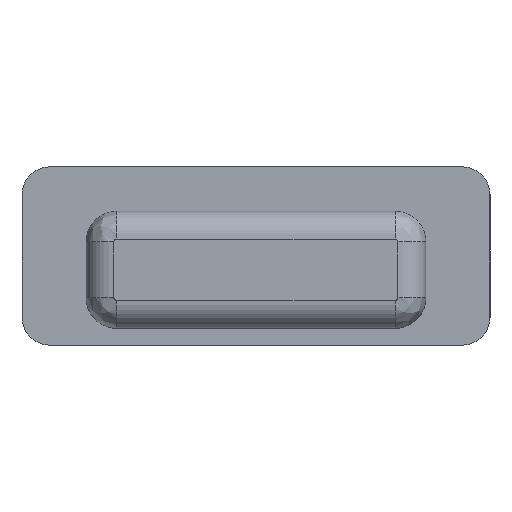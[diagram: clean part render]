
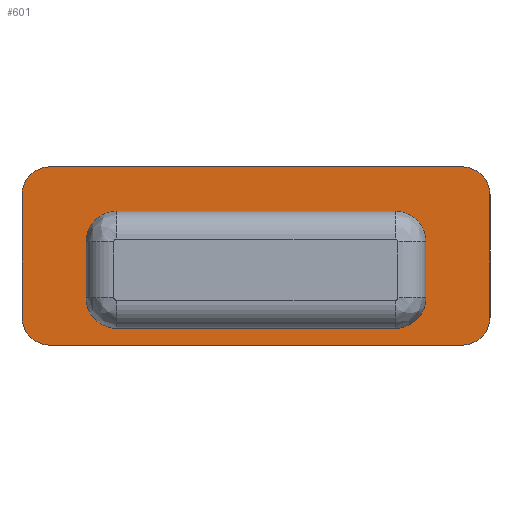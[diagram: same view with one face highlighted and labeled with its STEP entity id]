
A CAD part, top view. The second image highlights one B-rep face of the part: STEP entity #601.
In plain terms, the highlighted planar face has unit normal (-0.001, 0, 1).
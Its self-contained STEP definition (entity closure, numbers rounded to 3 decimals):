
#97=CARTESIAN_POINT('',(-28.539,-5.2,18.757));
#98=DIRECTION('',(-0.001,0.,1.));
#99=DIRECTION('',(-1.,0.,-0.001));
#100=AXIS2_PLACEMENT_3D('',#97,#98,#99);
#102=DIRECTION('',(-1.,0.,-0.001));
#103=VECTOR('',#102,10.);
#104=CARTESIAN_POINT('',(-18.539,-6.3,18.763));
#105=LINE('',#104,#103);
#106=CARTESIAN_POINT('',(-18.539,-5.2,18.763));
#107=DIRECTION('',(-0.001,0.,1.));
#108=DIRECTION('',(0.,-1.,0.));
#109=AXIS2_PLACEMENT_3D('',#106,#107,#108);
#111=DIRECTION('',(0.,-1.,0.));
#112=VECTOR('',#111,2.);
#113=CARTESIAN_POINT('',(-17.439,-3.2,18.764));
#114=LINE('',#113,#112);
#115=CARTESIAN_POINT('',(-18.539,-3.2,18.763));
#116=DIRECTION('',(0.001,0.,-1.));
#117=DIRECTION('',(0.,1.,0.));
#118=AXIS2_PLACEMENT_3D('',#115,#116,#117);
#120=DIRECTION('',(1.,0.,0.001));
#121=VECTOR('',#120,10.);
#122=CARTESIAN_POINT('',(-28.539,-2.1,18.757));
#123=LINE('',#122,#121);
#124=CARTESIAN_POINT('',(-28.539,-3.2,18.757));
#125=DIRECTION('',(0.001,0.,-1.));
#126=DIRECTION('',(-1.,0.,-0.001));
#127=AXIS2_PLACEMENT_3D('',#124,#125,#126);
#129=DIRECTION('',(0.,1.,0.));
#130=VECTOR('',#129,2.);
#131=CARTESIAN_POINT('',(-29.639,-5.2,18.756));
#132=LINE('',#131,#130);
#133=CARTESIAN_POINT('',(-30.939,-1.5,18.756));
#134=DIRECTION('',(-0.001,0.,1.));
#135=DIRECTION('',(0.,1.,0.));
#136=AXIS2_PLACEMENT_3D('',#133,#134,#135);
#138=CARTESIAN_POINT('',(-16.139,-1.5,18.764));
#139=DIRECTION('',(-0.001,0.,1.));
#140=DIRECTION('',(1.,0.,0.001));
#141=AXIS2_PLACEMENT_3D('',#138,#139,#140);
#143=CARTESIAN_POINT('',(-16.139,-5.9,18.764));
#144=DIRECTION('',(-0.001,0.,1.));
#145=DIRECTION('',(0.,-1.,0.));
#146=AXIS2_PLACEMENT_3D('',#143,#144,#145);
#148=DIRECTION('',(-1.,0.,-0.001));
#149=VECTOR('',#148,14.8);
#150=CARTESIAN_POINT('',(-16.139,-6.9,18.764));
#151=LINE('',#150,#149);
#152=CARTESIAN_POINT('',(-30.939,-5.9,18.756));
#153=DIRECTION('',(-0.001,0.,1.));
#154=DIRECTION('',(-1.,0.,-0.001));
#155=AXIS2_PLACEMENT_3D('',#152,#153,#154);
#213=DIRECTION('',(0.,-1.,0.));
#214=VECTOR('',#213,4.4);
#215=CARTESIAN_POINT('',(-31.939,-1.5,18.755));
#216=LINE('',#215,#214);
#249=DIRECTION('',(0.,1.,0.));
#250=VECTOR('',#249,4.4);
#251=CARTESIAN_POINT('',(-15.139,-5.9,18.765));
#252=LINE('',#251,#250);
#261=DIRECTION('',(-1.,0.,-0.001));
#262=VECTOR('',#261,14.8);
#263=CARTESIAN_POINT('',(-16.139,-0.5,
18.764));
#264=LINE('',#263,#262);
#289=CARTESIAN_POINT('',(-17.439,-5.2,18.764));
#290=VERTEX_POINT('',#289);
#291=CARTESIAN_POINT('',(-17.439,-3.2,18.764));
#292=VERTEX_POINT('',#291);
#295=CARTESIAN_POINT('',(-18.539,-6.3,18.763));
#296=VERTEX_POINT('',#295);
#299=CARTESIAN_POINT('',(-28.539,-6.3,18.757));
#300=VERTEX_POINT('',#299);
#303=CARTESIAN_POINT('',(-29.639,-5.2,18.756));
#304=VERTEX_POINT('',#303);
#307=CARTESIAN_POINT('',(-29.639,-3.2,18.756));
#308=VERTEX_POINT('',#307);
#311=CARTESIAN_POINT('',(-28.539,-2.1,18.757));
#312=VERTEX_POINT('',#311);
#315=CARTESIAN_POINT('',(-18.539,-2.1,18.763));
#316=VERTEX_POINT('',#315);
#337=CARTESIAN_POINT('',(-16.139,-6.9,18.764));
#338=VERTEX_POINT('',#337);
#339=CARTESIAN_POINT('',(-15.139,-5.9,18.765));
#340=VERTEX_POINT('',#339);
#345=CARTESIAN_POINT('',(-31.939,-5.9,18.755));
#346=VERTEX_POINT('',#345);
#347=CARTESIAN_POINT('',(-30.939,-6.9,18.756));
#348=VERTEX_POINT('',#347);
#353=CARTESIAN_POINT('',(-30.939,-0.5,
18.756));
#354=VERTEX_POINT('',#353);
#355=CARTESIAN_POINT('',(-31.939,-1.5,18.755));
#356=VERTEX_POINT('',#355);
#361=CARTESIAN_POINT('',(-15.139,-1.5,18.765));
#362=VERTEX_POINT('',#361);
#363=CARTESIAN_POINT('',(-16.139,-0.5,
18.764));
#364=VERTEX_POINT('',#363);
#562=CARTESIAN_POINT('',(-23.539,-3.7,18.76));
#563=DIRECTION('',(-0.001,0.,1.));
#564=DIRECTION('',(0.,1.,0.));
#565=AXIS2_PLACEMENT_3D('',#562,#563,#564);
#566=PLANE('',#565);
#568=ORIENTED_EDGE('',*,*,#567,.F.);
#570=ORIENTED_EDGE('',*,*,#569,.F.);
#572=ORIENTED_EDGE('',*,*,#571,.F.);
#574=ORIENTED_EDGE('',*,*,#573,.F.);
#576=ORIENTED_EDGE('',*,*,#575,.F.);
#578=ORIENTED_EDGE('',*,*,#577,.T.);
#580=ORIENTED_EDGE('',*,*,#579,.F.);
#582=ORIENTED_EDGE('',*,*,#581,.F.);
#583=EDGE_LOOP('',(#568,#570,#572,#574,#576,#578,#580,#582));
#584=FACE_OUTER_BOUND('',#583,.F.);
#586=ORIENTED_EDGE('',*,*,#585,.T.);
#588=ORIENTED_EDGE('',*,*,#587,.F.);
#589=ORIENTED_EDGE('',*,*,#555,.T.);
#590=ORIENTED_EDGE('',*,*,#374,.F.);
#592=ORIENTED_EDGE('',*,*,#591,.F.);
#594=ORIENTED_EDGE('',*,*,#593,.F.);
#596=ORIENTED_EDGE('',*,*,#595,.F.);
#598=ORIENTED_EDGE('',*,*,#597,.F.);
#599=EDGE_LOOP('',(#586,#588,#589,#590,#592,#594,#596,#598));
#600=FACE_BOUND('',#599,.F.);
#601=ADVANCED_FACE('',(#584,#600),#566,.T.);
#101=CIRCLE('',#100,1.1);
#110=CIRCLE('',#109,1.1);
#119=CIRCLE('',#118,1.1);
#128=CIRCLE('',#127,1.1);
#137=CIRCLE('',#136,1.);
#142=CIRCLE('',#141,1.);
#147=CIRCLE('',#146,1.);
#156=CIRCLE('',#155,1.);
#374=EDGE_CURVE('',#292,#290,#114,.T.);
#555=EDGE_CURVE('',#296,#290,#110,.T.);
#567=EDGE_CURVE('',#354,#356,#137,.T.);
#569=EDGE_CURVE('',#364,#354,#264,.T.);
#571=EDGE_CURVE('',#362,#364,#142,.T.);
#573=EDGE_CURVE('',#340,#362,#252,.T.);
#575=EDGE_CURVE('',#338,#340,#147,.T.);
#577=EDGE_CURVE('',#338,#348,#151,.T.);
#579=EDGE_CURVE('',#346,#348,#156,.T.);
#581=EDGE_CURVE('',#356,#346,#216,.T.);
#585=EDGE_CURVE('',#304,#300,#101,.T.);
#587=EDGE_CURVE('',#296,#300,#105,.T.);
#591=EDGE_CURVE('',#316,#292,#119,.T.);
#593=EDGE_CURVE('',#312,#316,#123,.T.);
#595=EDGE_CURVE('',#308,#312,#128,.T.);
#597=EDGE_CURVE('',#304,#308,#132,.T.);
